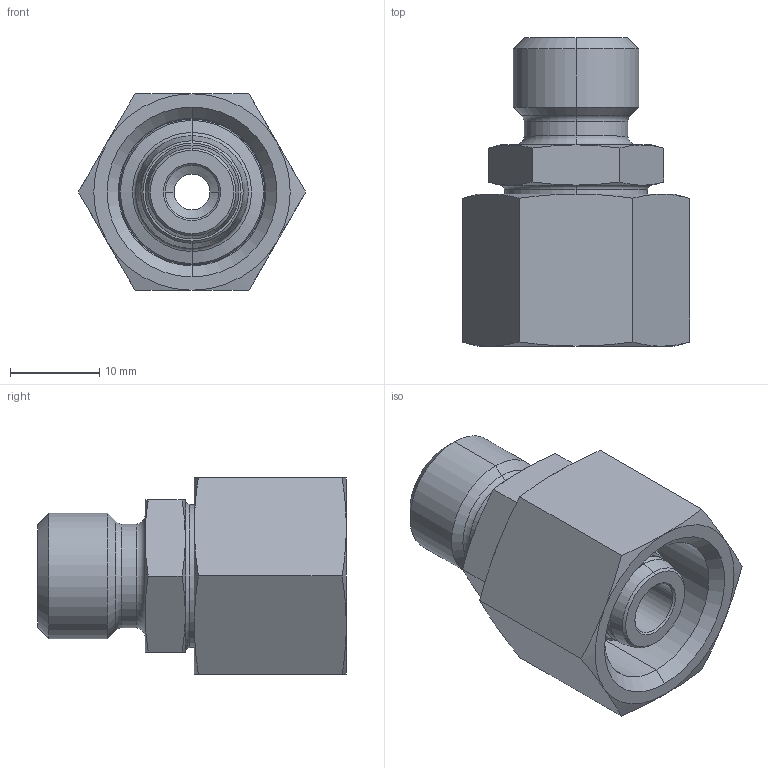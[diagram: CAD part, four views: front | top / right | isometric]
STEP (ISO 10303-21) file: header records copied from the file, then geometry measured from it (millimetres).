
FILE_DESCRIPTION (( 'STEP AP214' ), '1' );
FILE_NAME ('707.1871.175.30.STEP', '2018-03-23T14:16:14', ( '' ), ( '' ), 'SwSTEP 2.0', 'SolidWorks 2015', '' );
FILE_SCHEMA (( 'AUTOMOTIVE_DESIGN' ));
Length unit declared in the file: millimetre
Products named in the file (4): 10000014386_S02_000; 1012557331_EZ_705_0202_240_13_A_0_8L_6S; 1348767012_706_1870_175_30_A_0_6L; 707.1871.175.30
Assembly tree (3 placements, depth 2):
  707.1871.175.30
    1348767012_706_1870_175_30_A_0_6L
    1012557331_EZ_705_0202_240_13_A_0_8L_6S
    10000014386_S02_000
Bounding box: 25.4 x 34.5 x 22 mm (x, y, z)
Volume: 7640 mm3; surface area: 5291.1 mm2
Topology: 3 solids, 3 shells, 105 faces, 234 edges, 136 vertices
Faces by surface type: cone 44, cylinder 22, plane 20, torus 19
Entity records: 3282 total; most frequent: CARTESIAN_POINT 753, DIRECTION 528, ORIENTED_EDGE 468, EDGE_CURVE 234, AXIS2_PLACEMENT_3D 225, VERTEX_POINT 136, EDGE_LOOP 114, CIRCLE 114
